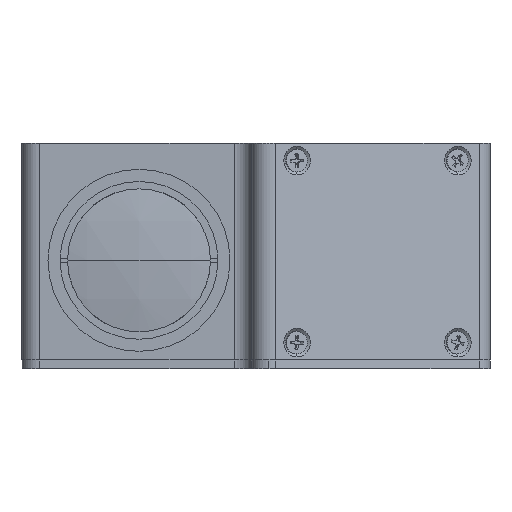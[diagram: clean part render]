
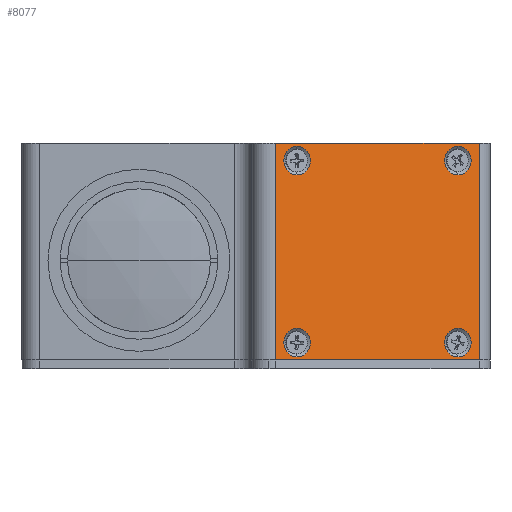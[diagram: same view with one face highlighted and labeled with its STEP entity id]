
A CAD part, left-side view. The second image highlights one B-rep face of the part: STEP entity #8077.
In plain terms, the highlighted planar face has unit normal (-0.927, -0.375, 0).
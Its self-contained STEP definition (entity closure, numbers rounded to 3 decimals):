
#96 = CARTESIAN_POINT ( 'NONE',  ( 23.843, -31.516, 27. ) ) ;
#351 = DIRECTION ( 'NONE',  ( 0., 0., 1. ) ) ;
#620 = FACE_OUTER_BOUND ( 'NONE', #882, .T. ) ;
#695 = AXIS2_PLACEMENT_3D ( 'NONE', #8724, #1651, #9841 ) ;
#748 = DIRECTION ( 'NONE',  ( 0., 0., 1. ) ) ;
#848 = VERTEX_POINT ( 'NONE', #7832 ) ;
#882 = EDGE_LOOP ( 'NONE', ( #5203, #5234, #5372, #5638 ) ) ;
#1084 = AXIS2_PLACEMENT_3D ( 'NONE', #11800, #4876, #12939 ) ;
#1408 = VERTEX_POINT ( 'NONE', #6196 ) ;
#1607 = AXIS2_PLACEMENT_3D ( 'NONE', #3386, #11526, #4560 ) ;
#1651 = DIRECTION ( 'NONE',  ( -0.927, -0.375, 0. ) ) ;
#1745 = CARTESIAN_POINT ( 'NONE',  ( 40.838, -73.583, -22.3 ) ) ;
#1893 = LINE ( 'NONE', #8410, #13779 ) ;
#2245 = CARTESIAN_POINT ( 'NONE',  ( 25.854, -36.495, 19.7 ) ) ;
#2606 = LINE ( 'NONE', #5376, #11853 ) ;
#2877 = VERTEX_POINT ( 'NONE', #10334 ) ;
#2901 = DIRECTION ( 'NONE',  ( -0.927, -0.375, 0. ) ) ;
#2947 = CARTESIAN_POINT ( 'NONE',  ( 45.334, -84.709, -23. ) ) ;
#3198 = CARTESIAN_POINT ( 'NONE',  ( 25.854, -36.495, 26.3 ) ) ;
#3386 = CARTESIAN_POINT ( 'NONE',  ( 40.838, -73.583, 23. ) ) ;
#3545 = ORIENTED_EDGE ( 'NONE', *, *, #11021, .F. ) ;
#3731 = FACE_BOUND ( 'NONE', #8115, .T. ) ;
#3882 = CIRCLE ( 'NONE', #6035, 3.3 ) ;
#3918 = ORIENTED_EDGE ( 'NONE', *, *, #9805, .F. ) ;
#3945 = ORIENTED_EDGE ( 'NONE', *, *, #10931, .F. ) ;
#3963 = DIRECTION ( 'NONE',  ( -0.927, -0.375, 0. ) ) ;
#4210 = CARTESIAN_POINT ( 'NONE',  ( 23.843, -31.516, 2. ) ) ;
#4329 = ORIENTED_EDGE ( 'NONE', *, *, #9974, .F. ) ;
#4451 = ORIENTED_EDGE ( 'NONE', *, *, #10842, .F. ) ;
#4560 = DIRECTION ( 'NONE',  ( 0., 0., 1. ) ) ;
#4667 = ORIENTED_EDGE ( 'NONE', *, *, #10159, .F. ) ;
#4701 = AXIS2_PLACEMENT_3D ( 'NONE', #10933, #3963, #12060 ) ;
#4810 = ORIENTED_EDGE ( 'NONE', *, *, #10734, .F. ) ;
#4876 = DIRECTION ( 'NONE',  ( -0.927, -0.375, 0. ) ) ;
#4877 = ORIENTED_EDGE ( 'NONE', *, *, #10310, .F. ) ;
#4896 = VERTEX_POINT ( 'NONE', #96 ) ;
#5065 = EDGE_LOOP ( 'NONE', ( #4810, #4877 ) ) ;
#5203 = ORIENTED_EDGE ( 'NONE', *, *, #11105, .F. ) ;
#5234 = ORIENTED_EDGE ( 'NONE', *, *, #10656, .T. ) ;
#5260 = VERTEX_POINT ( 'NONE', #1745 ) ;
#5317 = DIRECTION ( 'NONE',  ( -0.375, 0.927, 0. ) ) ;
#5372 = ORIENTED_EDGE ( 'NONE', *, *, #11130, .F. ) ;
#5376 = CARTESIAN_POINT ( 'NONE',  ( 45.334, -84.709, 27. ) ) ;
#5436 = AXIS2_PLACEMENT_3D ( 'NONE', #14539, #7856, #748 ) ;
#5464 = CARTESIAN_POINT ( 'NONE',  ( 25.854, -36.495, 23. ) ) ;
#5638 = ORIENTED_EDGE ( 'NONE', *, *, #11182, .T. ) ;
#5850 = VERTEX_POINT ( 'NONE', #2245 ) ;
#6035 = AXIS2_PLACEMENT_3D ( 'NONE', #9922, #2901, #11041 ) ;
#6095 = CARTESIAN_POINT ( 'NONE',  ( 40.838, -73.583, -15.7 ) ) ;
#6195 = CARTESIAN_POINT ( 'NONE',  ( 42.825, -78.498, -23. ) ) ;
#6196 = CARTESIAN_POINT ( 'NONE',  ( 40.838, -73.583, 19.7 ) ) ;
#6366 = AXIS2_PLACEMENT_3D ( 'NONE', #10483, #14920, #8263 ) ;
#6574 = EDGE_LOOP ( 'NONE', ( #4451, #4667 ) ) ;
#6669 = DIRECTION ( 'NONE',  ( 0., 0., 1. ) ) ;
#6851 = AXIS2_PLACEMENT_3D ( 'NONE', #14155, #7463, #351 ) ;
#6941 = FACE_BOUND ( 'NONE', #5065, .T. ) ;
#7463 = DIRECTION ( 'NONE',  ( -0.927, -0.375, 0. ) ) ;
#7538 = VERTEX_POINT ( 'NONE', #12279 ) ;
#7832 = CARTESIAN_POINT ( 'NONE',  ( 25.854, -36.495, -22.3 ) ) ;
#7856 = DIRECTION ( 'NONE',  ( -0.927, -0.375, 0. ) ) ;
#7998 = CIRCLE ( 'NONE', #5436, 3.3 ) ;
#8077 = ADVANCED_FACE ( 'NONE', ( #13294, #3731, #12595, #6941, #620 ), #13834, .T. ) ;
#8115 = EDGE_LOOP ( 'NONE', ( #3945, #4329 ) ) ;
#8263 = DIRECTION ( 'NONE',  ( 0., 0., 1. ) ) ;
#8410 = CARTESIAN_POINT ( 'NONE',  ( 42.825, -78.498, 2. ) ) ;
#8439 = VERTEX_POINT ( 'NONE', #12655 ) ;
#8520 = LINE ( 'NONE', #4210, #14108 ) ;
#8724 = CARTESIAN_POINT ( 'NONE',  ( 25.854, -36.495, -19. ) ) ;
#8775 = AXIS2_PLACEMENT_3D ( 'NONE', #5464, #13456, #6669 ) ;
#8867 = CIRCLE ( 'NONE', #8775, 3.3 ) ;
#8955 = VERTEX_POINT ( 'NONE', #3198 ) ;
#9221 = LINE ( 'NONE', #2947, #12189 ) ;
#9237 = CIRCLE ( 'NONE', #1607, 3.3 ) ;
#9805 = EDGE_CURVE ( 'NONE', #1408, #13674, #9237, .T. ) ;
#9834 = CARTESIAN_POINT ( 'NONE',  ( 40.838, -73.583, 26.3 ) ) ;
#9841 = DIRECTION ( 'NONE',  ( 0., 0., 1. ) ) ;
#9922 = CARTESIAN_POINT ( 'NONE',  ( 25.854, -36.495, -19. ) ) ;
#9974 = EDGE_CURVE ( 'NONE', #5260, #12093, #11519, .T. ) ;
#10159 = EDGE_CURVE ( 'NONE', #848, #7538, #13598, .T. ) ;
#10291 = CIRCLE ( 'NONE', #4701, 3.3 ) ;
#10310 = EDGE_CURVE ( 'NONE', #5850, #8955, #8867, .T. ) ;
#10334 = CARTESIAN_POINT ( 'NONE',  ( 23.843, -31.516, -23. ) ) ;
#10483 = CARTESIAN_POINT ( 'NONE',  ( 33.477, -55.363, 2. ) ) ;
#10656 = EDGE_CURVE ( 'NONE', #10726, #8439, #1893, .T. ) ;
#10726 = VERTEX_POINT ( 'NONE', #6195 ) ;
#10734 = EDGE_CURVE ( 'NONE', #8955, #5850, #11167, .T. ) ;
#10842 = EDGE_CURVE ( 'NONE', #7538, #848, #3882, .T. ) ;
#10931 = EDGE_CURVE ( 'NONE', #12093, #5260, #7998, .T. ) ;
#10933 = CARTESIAN_POINT ( 'NONE',  ( 40.838, -73.583, 23. ) ) ;
#11021 = EDGE_CURVE ( 'NONE', #13674, #1408, #10291, .T. ) ;
#11041 = DIRECTION ( 'NONE',  ( 0., 0., 1. ) ) ;
#11105 = EDGE_CURVE ( 'NONE', #10726, #2877, #9221, .T. ) ;
#11130 = EDGE_CURVE ( 'NONE', #4896, #8439, #2606, .T. ) ;
#11167 = CIRCLE ( 'NONE', #6851, 3.3 ) ;
#11182 = EDGE_CURVE ( 'NONE', #4896, #2877, #8520, .T. ) ;
#11519 = CIRCLE ( 'NONE', #1084, 3.3 ) ;
#11526 = DIRECTION ( 'NONE',  ( -0.927, -0.375, 0. ) ) ;
#11800 = CARTESIAN_POINT ( 'NONE',  ( 40.838, -73.583, -19. ) ) ;
#11853 = VECTOR ( 'NONE', #12247, 1000. ) ;
#12060 = DIRECTION ( 'NONE',  ( 0., 0., 1. ) ) ;
#12093 = VERTEX_POINT ( 'NONE', #6095 ) ;
#12189 = VECTOR ( 'NONE', #5317, 1000. ) ;
#12247 = DIRECTION ( 'NONE',  ( 0.375, -0.927, 0. ) ) ;
#12279 = CARTESIAN_POINT ( 'NONE',  ( 25.854, -36.495, -15.7 ) ) ;
#12291 = DIRECTION ( 'NONE',  ( 0., 0., -1. ) ) ;
#12595 = FACE_BOUND ( 'NONE', #6574, .T. ) ;
#12655 = CARTESIAN_POINT ( 'NONE',  ( 42.825, -78.498, 27. ) ) ;
#12939 = DIRECTION ( 'NONE',  ( 0., 0., 1. ) ) ;
#13058 = EDGE_LOOP ( 'NONE', ( #3545, #3918 ) ) ;
#13294 = FACE_BOUND ( 'NONE', #13058, .T. ) ;
#13456 = DIRECTION ( 'NONE',  ( -0.927, -0.375, 0. ) ) ;
#13598 = CIRCLE ( 'NONE', #695, 3.3 ) ;
#13674 = VERTEX_POINT ( 'NONE', #9834 ) ;
#13779 = VECTOR ( 'NONE', #14023, 1000. ) ;
#13834 = PLANE ( 'NONE',  #6366 ) ;
#14023 = DIRECTION ( 'NONE',  ( 0., 0., 1. ) ) ;
#14108 = VECTOR ( 'NONE', #12291, 1000. ) ;
#14155 = CARTESIAN_POINT ( 'NONE',  ( 25.854, -36.495, 23. ) ) ;
#14539 = CARTESIAN_POINT ( 'NONE',  ( 40.838, -73.583, -19. ) ) ;
#14920 = DIRECTION ( 'NONE',  ( -0.927, -0.375, 0. ) ) ;
